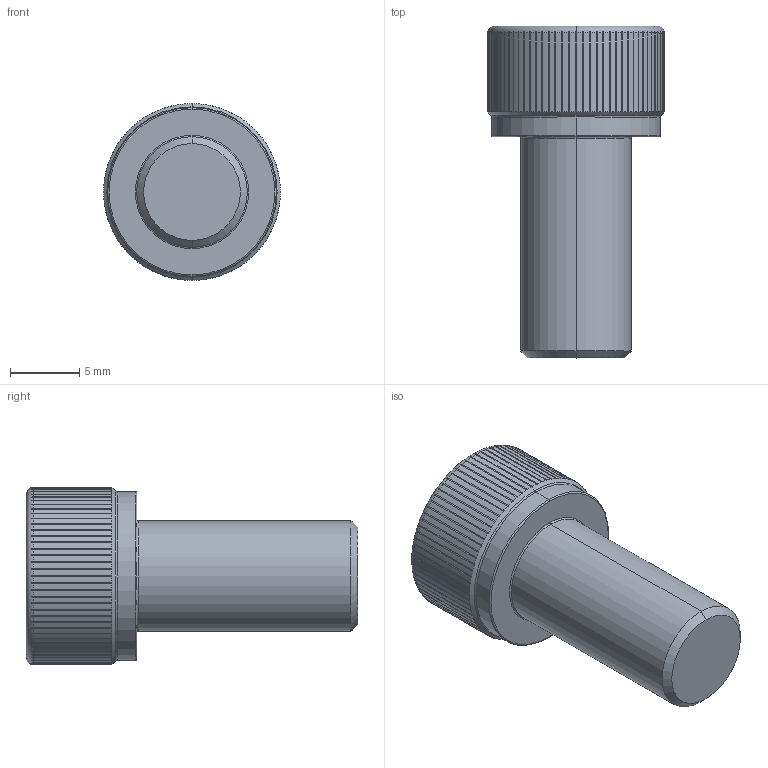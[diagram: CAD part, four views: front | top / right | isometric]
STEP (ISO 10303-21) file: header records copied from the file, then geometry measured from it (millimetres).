
FILE_DESCRIPTION (( 'STEP AP203' ), '1' );
FILE_NAME ('LGDT-304-M8x16.STEP', '2026-08-10T06:35:37', ( '' ), ( '' ), 'SwSTEP 2.0', 'SolidWorks 2020', '' );
FILE_SCHEMA (( 'CONFIG_CONTROL_DESIGN' ));
Length unit declared in the file: millimetre
Products named in the file (1): LGDT-304-M8x16
Bounding box: 12.8 x 24 x 12.8 mm (x, y, z)
Volume: 1652.7 mm3; surface area: 1055.7 mm2
Topology: 1 solids, 1 shells, 204 faces, 576 edges, 376 vertices
Faces by surface type: cylinder 175, cone 11, plane 10, torus 8
Entity records: 8367 total; most frequent: CARTESIAN_POINT 3208, ORIENTED_EDGE 1152, DIRECTION 988, EDGE_CURVE 576, AXIS2_PLACEMENT_3D 398, VERTEX_POINT 376, EDGE_LOOP 206, FACE_OUTER_BOUND 204
